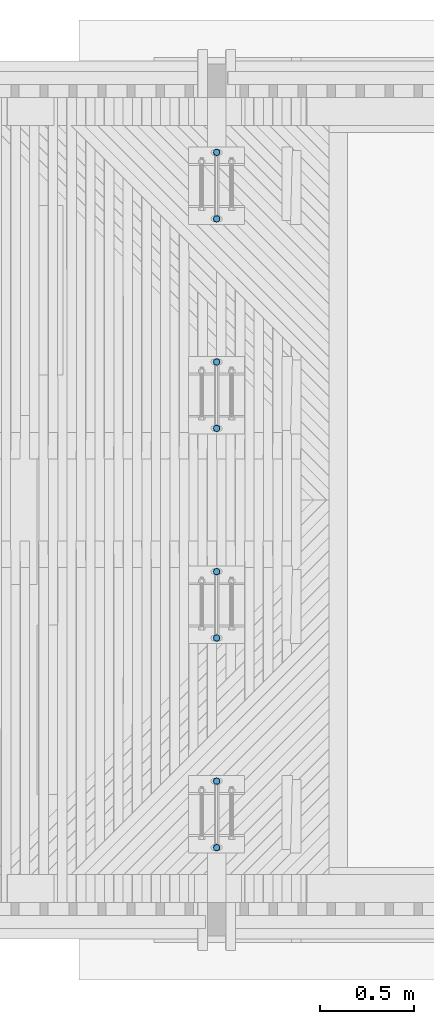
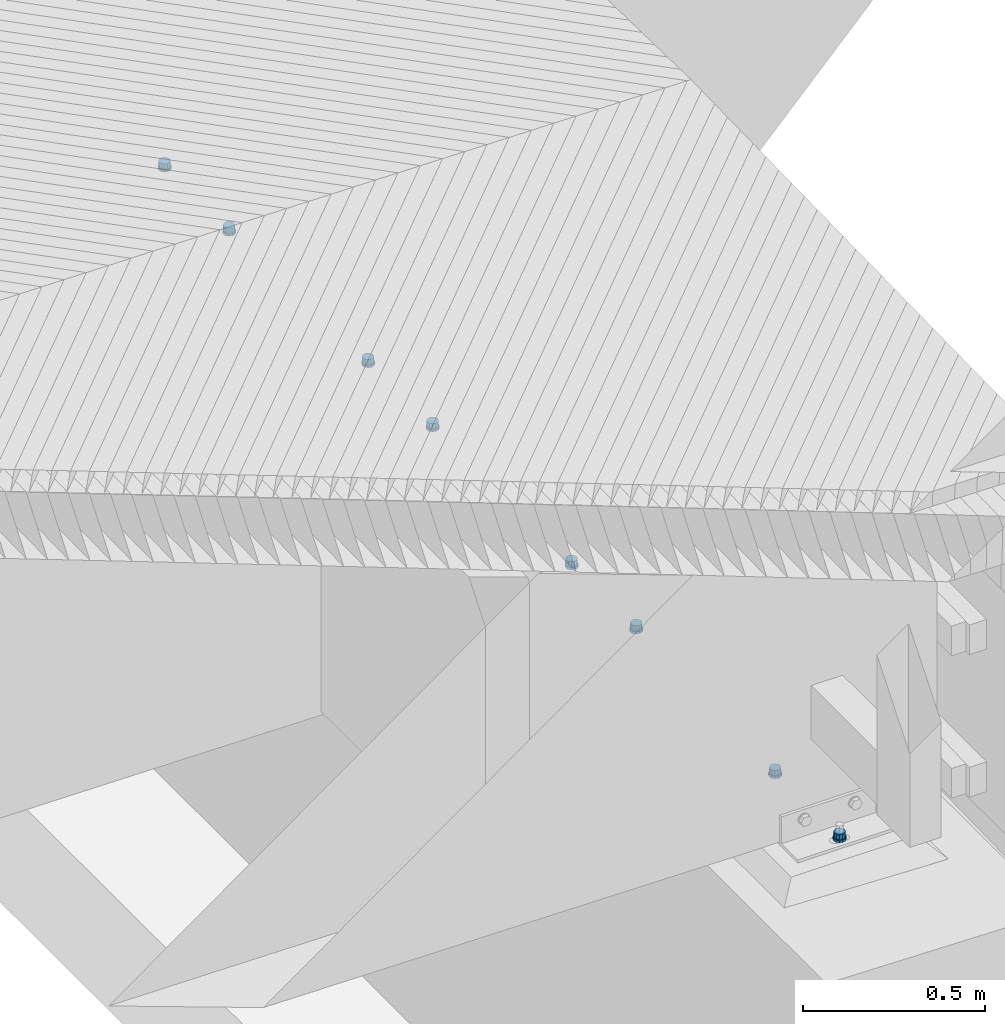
# One storey, part 15 of 52: 16 columns.
"""IFC2X3 building model written with IfcOpenShell, lengths in millimetres."""

from ifc_helpers import new_model, si_unit, frame, origin_with_axes, place, context, subcontext, project, spatial, faceted_brep, material, type_object, element, save


model = new_model("IFC2X3")

# Units and contexts
model_context = context("Model", 3, precision=1e-05, world=origin_with_axes())
body_context = subcontext(model_context, "Body", "Model", "MODEL_VIEW")
ifc_project = project(units=[si_unit("LENGTHUNIT", "METRE", prefix="MILLI"), si_unit("AREAUNIT", "SQUARE_METRE"), si_unit("VOLUMEUNIT", "CUBIC_METRE"), si_unit("MASSUNIT", "GRAM", prefix="KILO"), si_unit("TIMEUNIT", "SECOND"), si_unit("PLANEANGLEUNIT", "RADIAN"), si_unit("SOLIDANGLEUNIT", "STERADIAN"), si_unit("THERMODYNAMICTEMPERATUREUNIT", "DEGREE_CELSIUS"), si_unit("LUMINOUSINTENSITYUNIT", "LUMEN")], contexts=[model_context])

# Site, building, storey
site_placement = place(None, origin_with_axes())
site = spatial("IfcSite", under=ifc_project, at=site_placement, Name="Undefined", CompositionType="ELEMENT")
building_placement = place(site_placement, origin_with_axes())
building = spatial("IfcBuilding", under=site, at=building_placement, Name="Undefined", CompositionType="ELEMENT")
storey_placement = place(building_placement, origin_with_axes())
storey = spatial("IfcBuildingStorey", under=building, at=storey_placement, Name="Undefined", CompositionType="ELEMENT", Elevation=0.0)

# Columns
ifc_material = material(Name="STEEL/Steel_Undefined")
column_type_1 = type_object("IfcColumnType", Name="D38", PredefinedType="NOTDEFINED")
for number, where, z_axis, x_axis, name in (
    (1, (16000.0, 2747.50000000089, 2007.32999999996), (0.0, 1.0, 0.0), (0.0, 0.0, 1.0), "BEAM"),
    (2, (16000.0, 3102.50000000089, 2007.32999999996), (0.0, 1.0, 0.0), (0.0, 0.0, 1.0), "BEAM"),
    (3, (16000.0, 3867.50000000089, 1985.32999999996), (0.0, 1.0, 0.0), (0.0, 0.0, 1.0), "BEAM"),
    (4, (16000.0, 4222.50000000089, 1985.32999999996), (0.0, 1.0, 0.0), (0.0, 0.0, 1.0), "BEAM"),
    (5, (16000.0, 1982.5, 2007.32999999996), (0.0, -1.0, 0.0), (0.0, 0.0, 1.0), "BEAM"),
    (6, (16000.0, 1627.5, 2007.32999999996), (0.0, -1.0, 0.0), (0.0, 0.0, 1.0), "BEAM"),
    (7, (16000.0, 862.5, 1985.32999999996), (0.0, -1.0, 0.0), (0.0, 0.0, 1.0), "BEAM"),
    (8, (16000.0, 507.5, 1985.32999999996), (0.0, -1.0, 0.0), (0.0, 0.0, 1.0), "BEAM"),
):
    element("IfcColumn", number, at=place(storey_placement, frame(where, z_axis=z_axis, x_axis=x_axis)), inside=storey, type_object=column_type_1, material=ifc_material, Name=name, ObjectType="D38", context=body_context, shape_type="Brep", body=[
        faceted_brep([(0.0, -19.0, 0.0), (0.0, -16.4544826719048, -9.5), (8.0, -16.4544826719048, -9.5), (8.0, -19.0, 0.0), (0.0, -9.5, -16.4544826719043), (8.0, -9.5, -16.4544826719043), (0.0, 0.0, -19.0), (8.0, 0.0, -19.0), (0.0, 9.5, -16.4544826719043), (8.0, 9.5, -16.4544826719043), (0.0, 16.4544826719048, -9.5), (8.0, 16.4544826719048, -9.5), (0.0, 19.0, 0.0), (8.0, 19.0, 0.0), (0.0, 16.4544826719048, 9.5), (8.0, 16.4544826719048, 9.5), (0.0, 9.5, 16.4544826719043), (8.0, 9.5, 16.4544826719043), (0.0, 0.0, 19.0), (8.0, 0.0, 19.0), (0.0, -9.5, 16.4544826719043), (8.0, -9.5, 16.4544826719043), (0.0, -16.4544826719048, 9.5), (8.0, -16.4544826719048, 9.5)], [[[0, 1, 2, 3]], [[1, 4, 5, 2]], [[4, 6, 7, 5]], [[6, 8, 9, 7]], [[8, 10, 11, 9]], [[10, 12, 13, 11]], [[12, 14, 15, 13]], [[14, 16, 17, 15]], [[16, 18, 19, 17]], [[18, 20, 21, 19]], [[20, 22, 23, 21]], [[22, 0, 3, 23]], [[5, 7, 9, 11, 13, 15, 17, 19, 21, 23, 3, 2]], [[22, 20, 18, 16, 14, 12, 10, 8, 6, 4, 1, 0]]]),
    ])
column_type_2 = type_object("IfcColumnType", Name="D33", PredefinedType="NOTDEFINED")
for number, where, z_axis, x_axis, name in (
    (9, (16000.0, 2747.50000000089, 2015.32999999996), (0.0, 1.0, 0.0), (0.0, 0.0, 1.0), "BEAM"),
    (10, (16000.0, 3102.50000000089, 2015.32999999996), (0.0, 1.0, 0.0), (0.0, 0.0, 1.0), "BEAM"),
    (11, (16000.0, 3867.50000000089, 1993.32999999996), (0.0, 1.0, 0.0), (0.0, 0.0, 1.0), "BEAM"),
    (12, (16000.0, 4222.50000000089, 1993.32999999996), (0.0, 1.0, 0.0), (0.0, 0.0, 1.0), "BEAM"),
    (13, (16000.0, 1982.5, 2015.32999999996), (0.0, -1.0, 0.0), (0.0, 0.0, 1.0), "BEAM"),
    (14, (16000.0, 1627.5, 2015.32999999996), (0.0, -1.0, 0.0), (0.0, 0.0, 1.0), "BEAM"),
    (15, (16000.0, 862.5, 1993.32999999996), (0.0, -1.0, 0.0), (0.0, 0.0, 1.0), "BEAM"),
    (16, (16000.0, 507.5, 1993.32999999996), (0.0, -1.0, 0.0), (0.0, 0.0, 1.0), "BEAM"),
):
    element("IfcColumn", number, at=place(storey_placement, frame(where, z_axis=z_axis, x_axis=x_axis)), inside=storey, type_object=column_type_2, material=ifc_material, Name=name, ObjectType="D33", context=body_context, shape_type="Brep", body=[
        faceted_brep([(0.0, -16.5, 0.0), (0.0, -14.2894191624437, -8.25), (18.0, -14.2894191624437, -8.25), (18.0, -16.5, 0.0), (0.0, -8.25, -14.2894191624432), (18.0, -8.25, -14.2894191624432), (0.0, 0.0, -16.5), (18.0, 0.0, -16.5), (0.0, 8.25, -14.2894191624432), (18.0, 8.25, -14.2894191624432), (0.0, 14.2894191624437, -8.25), (18.0, 14.2894191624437, -8.25), (0.0, 16.5, 0.0), (18.0, 16.5, 0.0), (0.0, 14.2894191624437, 8.25), (18.0, 14.2894191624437, 8.25), (0.0, 8.25, 14.2894191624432), (18.0, 8.25, 14.2894191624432), (0.0, 0.0, 16.5), (18.0, 0.0, 16.5), (0.0, -8.25, 14.2894191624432), (18.0, -8.25, 14.2894191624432), (0.0, -14.2894191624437, 8.25), (18.0, -14.2894191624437, 8.25)], [[[0, 1, 2, 3]], [[1, 4, 5, 2]], [[4, 6, 7, 5]], [[6, 8, 9, 7]], [[8, 10, 11, 9]], [[10, 12, 13, 11]], [[12, 14, 15, 13]], [[14, 16, 17, 15]], [[16, 18, 19, 17]], [[18, 20, 21, 19]], [[20, 22, 23, 21]], [[22, 0, 3, 23]], [[5, 7, 9, 11, 13, 15, 17, 19, 21, 23, 3, 2]], [[22, 20, 18, 16, 14, 12, 10, 8, 6, 4, 1, 0]]]),
    ])

save(model, "model.ifc")
